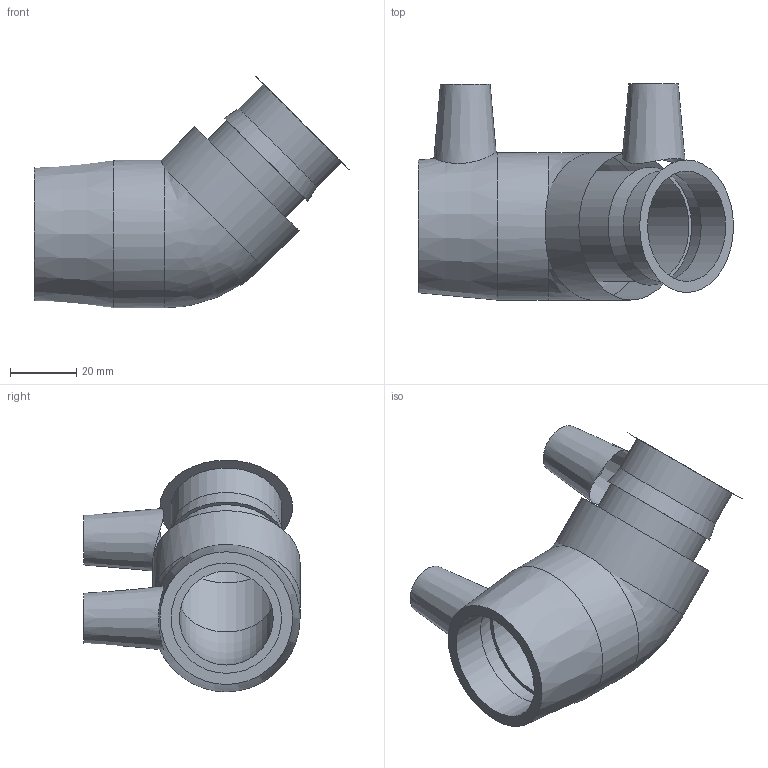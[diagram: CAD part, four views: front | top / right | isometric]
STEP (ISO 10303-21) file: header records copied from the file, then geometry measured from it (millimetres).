
FILE_DESCRIPTION(/* description */ ('PLASSON 45° ELBOW 1'''''),/* implementation_level */ '2;1');
FILE_NAME(/* name */ 'C:\Dropbox\KIMPROJECTS-Inventor 2019\99-16-3568-Processing Inch\ASTM ElectroFusion 2021\5906B\5906B003010.ipt.stp',/* time_stamp */ '2021-08-30T09:50:00+03:00',/* author */ ('KIM'),/* organization */ (''),/* preprocessor_version */ 'ST-DEVELOPER v17.2',/* originating_system */ 'Autodesk Inventor 2019',/* authorisation */ '');
FILE_SCHEMA (('AUTOMOTIVE_DESIGN { 1 0 10303 214 3 1 1 }'));
Length unit declared in the file: inch
Products named in the file (1): 5906B003010
Bounding box: 95 x 65.15 x 69.86 mm (x, y, z)
Volume: 68281.8 mm3; surface area: 27298.6 mm2
Topology: 1 solids, 1 shells, 30 faces, 66 edges, 46 vertices
Faces by surface type: plane 12, cylinder 10, cone 6, bspline 1, torus 1
Full cylindrical faces by diameter (mm): 4 x2, 10 x2, 33.3 x4, 44.45 x2
Entity records: 981 total; most frequent: CARTESIAN_POINT 235, DIRECTION 164, ORIENTED_EDGE 128, AXIS2_PLACEMENT_3D 74, EDGE_CURVE 64, VERTEX_POINT 46, CIRCLE 43, EDGE_LOOP 42
